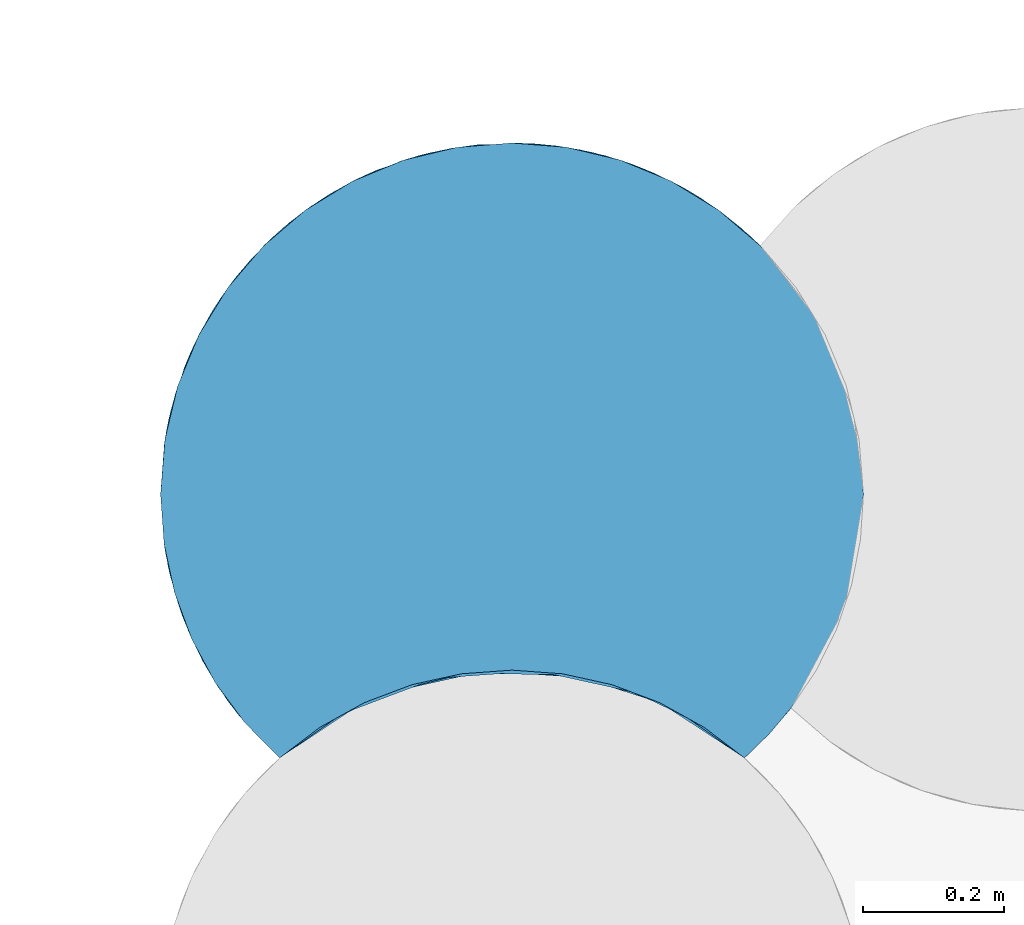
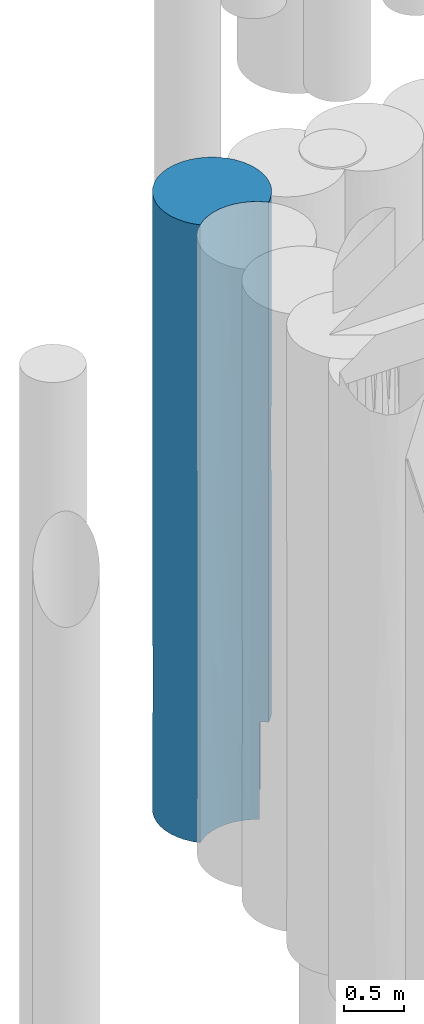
# One storey, part 79 of 104: 1 pile.
"""IFC2X3 building model written with IfcOpenShell, lengths in millimetres."""

from ifc_helpers import new_model, entity, si_unit, converted_unit, derived_unit, direction, frame, origin, place, context, subcontext, project, spatial, faceted_brep, source, transform, mapped, material, element, save


model = new_model("IFC2X3")

# Units and contexts
model_context = context("Model", 3, precision=0.01, world=origin(), true_north=direction((6.12303176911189e-17, 1.0)))
body_context = subcontext(model_context, "Body", "Model", "MODEL_VIEW")
ifc_project = project(units=[si_unit("LENGTHUNIT", "METRE", prefix="MILLI"), si_unit("AREAUNIT", "SQUARE_METRE", prefix="MILLI"), si_unit("VOLUMEUNIT", "CUBIC_METRE"), converted_unit("PLANEANGLEUNIT", "DEGREE", entity("IfcRatioMeasure", 0.0174532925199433), si_unit("PLANEANGLEUNIT", "RADIAN"), dimensions=[0, 0, 0, 0, 0, 0, 0]), si_unit("MASSUNIT", "GRAM", prefix="KILO"), derived_unit("MASSDENSITYUNIT", [(si_unit("MASSUNIT", "GRAM", prefix="KILO"), 1), (si_unit("LENGTHUNIT", "METRE"), -3)]), derived_unit("MOMENTOFINERTIAUNIT", [(si_unit("LENGTHUNIT", "METRE"), 4)]), si_unit("TIMEUNIT", "SECOND"), si_unit("FREQUENCYUNIT", "HERTZ"), si_unit("THERMODYNAMICTEMPERATUREUNIT", "DEGREE_CELSIUS"), derived_unit("THERMALTRANSMITTANCEUNIT", [(si_unit("MASSUNIT", "GRAM", prefix="KILO"), 1), (si_unit("THERMODYNAMICTEMPERATUREUNIT", "KELVIN"), -1), (si_unit("TIMEUNIT", "SECOND"), -3)]), derived_unit("VOLUMETRICFLOWRATEUNIT", [(si_unit("LENGTHUNIT", "METRE"), 3), (si_unit("TIMEUNIT", "SECOND"), -1)]), si_unit("ELECTRICCURRENTUNIT", "AMPERE"), si_unit("ELECTRICVOLTAGEUNIT", "VOLT"), si_unit("POWERUNIT", "WATT"), si_unit("FORCEUNIT", "NEWTON", prefix="KILO"), si_unit("ILLUMINANCEUNIT", "LUX"), si_unit("LUMINOUSFLUXUNIT", "LUMEN"), si_unit("LUMINOUSINTENSITYUNIT", "CANDELA"), derived_unit("USERDEFINED", [(si_unit("MASSUNIT", "GRAM", prefix="KILO"), -1), (si_unit("LENGTHUNIT", "METRE"), -2), (si_unit("TIMEUNIT", "SECOND"), 3), (si_unit("LUMINOUSFLUXUNIT", "LUMEN"), 1)]), derived_unit("LINEARVELOCITYUNIT", [(si_unit("LENGTHUNIT", "METRE"), 1), (si_unit("TIMEUNIT", "SECOND"), -1)]), si_unit("PRESSUREUNIT", "PASCAL"), derived_unit("USERDEFINED", [(si_unit("LENGTHUNIT", "METRE"), -2), (si_unit("MASSUNIT", "GRAM", prefix="KILO"), 1), (si_unit("TIMEUNIT", "SECOND"), -2)]), derived_unit("LINEARFORCEUNIT", [(si_unit("MASSUNIT", "GRAM", prefix="KILO"), 1), (si_unit("LENGTHUNIT", "METRE"), 1), (si_unit("TIMEUNIT", "SECOND"), -2), (si_unit("LENGTHUNIT", "METRE"), -1)]), derived_unit("PLANARFORCEUNIT", [(si_unit("MASSUNIT", "GRAM", prefix="KILO"), 1), (si_unit("LENGTHUNIT", "METRE"), 1), (si_unit("TIMEUNIT", "SECOND"), -2), (si_unit("LENGTHUNIT", "METRE"), -2)])], contexts=[model_context])

# Site, building, storey
site_placement = place(None, origin())
site = spatial("IfcSite", under=ifc_project, at=site_placement, Name="Theater aan de Parade", CompositionType="ELEMENT")
building_placement = place(site_placement, origin())
building = spatial("IfcBuilding", under=site, at=building_placement, Name="Theater aan de Parade", CompositionType="ELEMENT")
storey_placement = place(building_placement, frame((0.0, 0.0, -5520.0)))
storey = spatial("IfcBuildingStorey", under=building, at=storey_placement, Name="-2 kelder", CompositionType="ELEMENT", Elevation=-5520.0)

# Pile
ifc_material = material(Name="00_PBT_MAT_grout")
shared_shape = source(origin(), body_context, "Body", "Brep", [
    faceted_brep([(771.595272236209, 426.595272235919, 0.0), (771.595272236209, 47.4277804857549, 0.0), (708.553241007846, 81.752826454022, 0.0), (641.245770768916, 106.69707212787, 0.0), (571.060073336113, 121.746402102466, 0.0), (499.442677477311, 126.59063855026, 0.0), (427.869621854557, 121.129930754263, 0.0), (357.816033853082, 105.476813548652, 0.0), (290.725727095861, 79.9538884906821, 0.0), (227.981455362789, 45.0871828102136, 0.0), (170.876358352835, 1.59527223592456, 0.0), (121.346801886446, 51.9245147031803, 0.0), (79.4054520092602, 108.722623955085, 0.0), (45.8819407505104, 170.863992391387, 0.0), (21.4449513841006, 237.111691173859, 0.0), (6.58372515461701, 306.14267642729, 0.0), (1.5952722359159, 376.595272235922, 0.0), (7.00245761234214, 449.929764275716, 0.0), (23.1060438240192, 521.674761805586, 0.0), (49.5574540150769, 590.28151629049, 0.0), (85.7839385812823, 654.265823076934, 0.0), (131.001588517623, 712.24437708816, 0.0), (184.232206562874, 762.963858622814, 0.0), (244.324460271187, 805.327973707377, 0.0), (309.978781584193, 838.421127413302, 0.0), (379.775463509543, 861.528189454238, 0.0), (452.205347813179, 874.14992789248, 0.0), (525.70244103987, 876.013778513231, 0.0), (598.677754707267, 867.079718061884, 0.0), (669.553639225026, 847.541115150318, 0.0), (736.79787053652, 817.820540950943, 0.0), (798.956753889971, 778.560630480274, 0.0), (854.681338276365, 730.606553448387, 0.0), (899.82016176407, 678.947611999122, 0.0), (937.458431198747, 621.591816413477, 0.0), (966.892963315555, 559.620021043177, 0.0), (987.566626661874, 494.204126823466, 0.0), (999.088990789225, 426.595272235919, 0.0), (953.239872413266, 591.111367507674, 1381.7510307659), (1001.59527223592, 376.595272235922, 2561.53772597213), (1001.59527223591, 376.595272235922, 1000.0), (1000.96830879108, 401.626659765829, 1000.0), (848.930989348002, 736.258864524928, 5344.55119215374), (917.049039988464, 654.800532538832, 5308.07570261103), (877.101726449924, 706.739033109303, 4441.06819345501), (156.939340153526, 738.827640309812, 5357.22167721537), (96.9785831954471, 670.33892740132, 6320.0), (147.879183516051, 729.98588979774, 6320.0), (827.70457291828, 755.610738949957, 921.151738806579), (898.8957536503, 680.161290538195, 1162.74855042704), (999.088990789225, 426.595272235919, 1000.0), (213.498581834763, 785.251970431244, 920.15381045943), (291.15327803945, 830.152509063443, 810.828617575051), (634.475301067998, 858.614875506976, 1017.46635704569), (980.575628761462, 520.044977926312, 2521.25170621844), (993.18772646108, 467.901673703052, 3468.44463232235), (672.461852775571, 846.493784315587, 2006.04370418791), (562.354527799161, 872.889854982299, 1849.53812732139), (754.624820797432, 807.844675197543, 812.244561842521), (768.599877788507, 799.334601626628, 1632.22906462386), (15.8647589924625, 495.194886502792, 3425.00676783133), (39.6114825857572, 567.830671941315, 4323.72755607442), (59.8704803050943, 610.858389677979, 3379.77526209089), (897.929943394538, 681.421170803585, 6320.0), (963.402414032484, 568.256858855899, 6320.0), (974.965585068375, 537.593865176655, 4725.86252419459), (533.521299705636, 875.5749599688, 942.514832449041), (56.0293379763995, 603.467479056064, 6320.0), (75.191038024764, 637.707181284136, 5224.14321710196), (15.3941991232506, 493.250818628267, 5224.14321707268), (26.0385752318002, 531.016216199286, 6320.0), (838.046158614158, 746.461195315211, 3245.04919747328), (919.624145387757, 650.915999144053, 2650.89796131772), (858.856489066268, 726.401537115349, 1971.40063637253), (1001.59527223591, 376.595272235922, 5539.23113701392), (1001.59527223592, 376.595272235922, 4123.07545194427), (959.222312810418, 578.033827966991, 3586.42531278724), (854.6591219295, 730.637526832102, 6320.0), (794.96630704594, 781.482214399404, 6320.0), (934.383019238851, 626.984501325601, 6320.0), (511.246033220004, 876.502126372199, 5331.81977805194), (422.968903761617, 870.374468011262, 6320.0), (501.134978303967, 876.595060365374, 6320.0), (984.49529860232, 506.239263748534, 6320.0), (997.29925037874, 441.998376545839, 6320.0), (935.601957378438, 624.865683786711, 4440.2913989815), (9.25329301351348, 463.769669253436, 2344.79958530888), (1.5952722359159, 376.595272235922, 3123.07677752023), (13.73360964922, 486.098688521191, 933.042258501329), (41.7877270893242, 573.00561164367, 828.675845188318), (384.492188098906, 862.688748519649, 4846.27547099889), (346.736607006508, 852.009611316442, 6320.0), (572.035763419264, 871.608541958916, 3109.76698580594), (452.047967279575, 874.134280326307, 2498.01392287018), (762.314517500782, 803.239708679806, 4906.03867191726), (728.057191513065, 822.369877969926, 6320.0), (540.342981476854, 875.091626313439, 4376.06756971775), (617.803173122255, 862.903532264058, 5247.68212262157), (703.722752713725, 833.918442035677, 3155.80510153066), (415.758098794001, 869.172149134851, 1340.92848463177), (354.900819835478, 854.591859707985, 2195.35728535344), (344.451825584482, 851.259297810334, 3150.99551813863), (240.090937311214, 802.758953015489, 5266.75554212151), (281.893035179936, 825.739933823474, 4163.09276379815), (176.678786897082, 756.63379338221, 4418.71652685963), (107.325578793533, 684.087400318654, 1338.09582451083), (1001.59527223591, 376.595272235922, 6320.0), (276.542518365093, 823.082962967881, 1629.9119269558), (35.0688872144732, 556.4650364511, 1659.39207401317), (7.74390370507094, 454.767043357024, 6320.0), (1.5952722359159, 376.595272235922, 6320.0), (658.602525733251, 851.30436457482, 4190.85160928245), (749.693559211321, 810.700374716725, 3972.07439148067), (178.169234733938, 757.903019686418, 1988.38795987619), (452.200541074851, 874.14945072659, 3612.15134099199), (10.7146473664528, 471.654265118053, 4322.4066897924), (579.312373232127, 870.518396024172, 6320.0), (655.578352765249, 852.293927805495, 6320.0), (207.479262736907, 780.941377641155, 6320.0), (274.312985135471, 821.95216504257, 6320.0), (903.425891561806, 674.138804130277, 3568.50073788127), (205.732195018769, 779.664794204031, 3206.00769721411), (97.488355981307, 671.03983448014, 4189.81763721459), (55.6200587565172, 602.661875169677, 2458.889335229), (1.5952722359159, 376.595272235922, 780.76298501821), (1.5952722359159, 376.595272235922, 1561.53838876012), (1.59527223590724, 376.595272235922, 4721.5383887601), (1.59527223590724, 376.595272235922, 4758.45909542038), (1.5952722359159, 376.595272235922, 5539.23701498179), (368.479246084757, 858.549755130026, 3989.38450506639), (107.325578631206, 684.087400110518, 2718.24756362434), (797.303892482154, 779.778123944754, 2479.62013178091), (1.5952722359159, 376.595272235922, 3196.933125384), (1.59527223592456, 376.595272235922, 2379.23701498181), (81.9325787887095, 104.780585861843, 1017.18511568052), (8.55806942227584, 293.442902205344, 5148.84671878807), (14.9312625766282, 261.886328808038, 4158.7715699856), (32.4925295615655, 203.555921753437, 5243.64351772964), (95.9437805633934, 84.2823110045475, 3433.19596200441), (61.5454190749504, 139.200818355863, 1966.56472228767), (113.311086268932, 61.5787791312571, 1951.92213356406), (170.876358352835, 1.59527223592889, 1561.52693114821), (121.346801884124, 51.9245147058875, 6320.0), (170.876358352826, 1.59527223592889, 4721.55122183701), (170.876358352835, 1.59527223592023, 4758.46444495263), (170.876358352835, 1.59527223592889, 6320.0), (61.5454192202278, 139.200818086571, 4325.86684400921), (82.9474550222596, 103.220062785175, 5286.71455942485), (8.57236365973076, 293.358191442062, 1171.15328151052), (32.492529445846, 203.555922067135, 1063.68379680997), (6.58372515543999, 306.142676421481, 6320.0), (79.4054521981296, 108.722623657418, 6320.0), (15.0443011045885, 261.407805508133, 2148.18605632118), (45.8819409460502, 170.863991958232, 6320.0), (114.429533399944, 60.2051796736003, 4264.61051275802), (11.5744459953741, 277.199146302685, 3249.18197551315), (40.9318944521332, 182.200693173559, 3146.21578351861), (21.4449514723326, 237.111690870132, 6320.0), (170.876358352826, 1.59527223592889, 2342.30254206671), (170.876358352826, 1.59527223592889, 3123.07815298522), (170.876358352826, 1.59527223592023, 3940.77238040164), (573.617282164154, 121.38091277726, 6320.0), (644.137097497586, 105.846592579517, 6320.0), (711.683855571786, 80.3163177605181, 6320.0), (774.848704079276, 45.3225844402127, 6320.0), (832.314186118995, 1.59527223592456, 6320.0), (867.159553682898, 35.4754162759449, 6320.0), (898.504969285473, 72.5256502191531, 6320.0), (934.761466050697, 126.861316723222, 6320.0), (963.619737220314, 185.458165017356, 6320.0), (984.594521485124, 247.321434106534, 6320.0), (997.32580620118, 311.393756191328, 6320.0), (228.341840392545, 45.3225844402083, 6320.0), (291.506688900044, 80.3163177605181, 6320.0), (359.053446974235, 105.846592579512, 6320.0), (429.573262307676, 121.38091277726, 6320.0), (501.595272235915, 126.595272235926, 6320.0), (688.956416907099, 90.1638232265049, 1340.4413943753), (758.349408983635, 55.6375932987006, 1886.54071626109), (712.198170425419, 80.0778179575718, 2645.47714214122), (802.827671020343, 25.6679998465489, 1000.0), (832.314186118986, 1.59527223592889, 1000.0), (771.595272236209, 47.4277804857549, 1000.0), (258.727089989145, 63.6479533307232, 1046.28958521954), (606.423334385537, 115.482864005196, 873.534477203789), (832.314186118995, 1.59527223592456, 5539.23088831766), (323.812272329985, 93.9208599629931, 1922.57923863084), (284.507723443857, 77.0095217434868, 3116.55337305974), (238.9230271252, 52.0400884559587, 1951.92213538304), (658.042832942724, 101.48911379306, 5463.37972999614), (763.620284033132, 52.4390149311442, 4517.96417940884), (832.314186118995, 1.59527223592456, 4123.07538674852), (832.314186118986, 1.59527223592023, 4758.44494215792), (357.534922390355, 105.392322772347, 989.159883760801), (678.371966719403, 94.3024458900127, 4619.30089569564), (743.898833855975, 63.9612334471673, 5372.40596327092), (463.55802865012, 125.146340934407, 1355.76962226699), (606.423333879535, 115.482864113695, 1807.34831183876), (584.846448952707, 119.615800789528, 4046.97468994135), (674.35448587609, 95.8012548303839, 3462.96037064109), (465.490010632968, 125.28997852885, 3342.01516516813), (400.805957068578, 116.331439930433, 2567.64778405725), (503.979521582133, 126.589587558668, 2345.64036385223), (592.444462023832, 118.272427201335, 3016.22319950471), (394.03255252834, 114.888484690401, 5404.38906364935), (259.291709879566, 63.9612330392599, 5404.38906418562), (370.221463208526, 109.027570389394, 3411.71708895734), (243.100292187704, 54.5910026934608, 4578.41386490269), (324.818576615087, 94.3024454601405, 4691.9452614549), (537.700532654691, 125.289978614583, 4983.4280267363), (762.276659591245, 53.2628410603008, 3508.94704062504), (832.314186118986, 1.59527223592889, 2561.53822336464), (434.379932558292, 122.056772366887, 4387.56403530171), (832.314186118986, 1.5952722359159, 1780.79574797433), (832.314186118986, 1.5952722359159, 3196.92632242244), (917.540458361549, 99.1252700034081, 1955.09301580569), (867.171168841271, 35.4878641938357, 1000.0), (898.531422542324, 72.5530176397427, 1000.0), (896.390766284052, 69.7785225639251, 2829.99409704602), (950.158923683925, 155.709214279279, 2756.14628775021), (917.527076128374, 99.105210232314, 5352.99683042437), (997.327684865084, 311.408041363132, 1000.0), (975.125337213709, 216.067151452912, 1955.10139764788), (984.599592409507, 247.340381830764, 1000.0), (989.196445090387, 265.937709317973, 2937.9443579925), (894.42001763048, 67.2593392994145, 3954.69269750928), (934.773527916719, 126.882239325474, 1000.0), (975.118472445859, 216.046903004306, 5352.98578026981), (988.82471569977, 264.312284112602, 4384.29329364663), (967.802183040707, 195.899073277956, 3647.0139001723), (963.62858497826, 185.4795535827, 1000.0), (950.148475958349, 155.687998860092, 4537.78307526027), (771.595272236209, 426.595272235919, 1000.0)], [[[0, 1, 2, 3, 4, 5, 6, 7, 8, 9, 10, 11, 12, 13, 14, 15, 16, 17, 18, 19, 20, 21, 22, 23, 24, 25, 26, 27, 28, 29, 30, 31, 32, 33, 34, 35, 36, 37]], [[36, 35, 38]], [[39, 40, 41]], [[42, 43, 44]], [[45, 46, 47]], [[32, 48, 49]], [[36, 50, 37]], [[49, 34, 33]], [[51, 52, 23]], [[28, 53, 29]], [[39, 54, 55]], [[56, 53, 57]], [[58, 29, 53]], [[48, 58, 59]], [[60, 61, 62]], [[42, 63, 43]], [[64, 65, 43]], [[66, 28, 27]], [[67, 68, 69, 70]], [[56, 58, 53]], [[66, 53, 28]], [[50, 38, 54]], [[71, 72, 73]], [[74, 75, 65]], [[54, 76, 55]], [[77, 42, 78]], [[35, 34, 38]], [[64, 43, 79]], [[80, 81, 82]], [[74, 83, 84]], [[50, 39, 41]], [[58, 31, 30]], [[43, 85, 44]], [[60, 86, 87]], [[88, 89, 18]], [[65, 64, 83]], [[43, 63, 79]], [[90, 91, 81]], [[92, 57, 93]], [[42, 77, 63]], [[94, 95, 78]], [[96, 80, 97]], [[98, 56, 92]], [[97, 95, 94]], [[66, 26, 99]], [[52, 99, 25]], [[93, 100, 101]], [[102, 103, 104]], [[21, 105, 51]], [[99, 26, 25]], [[84, 106, 74]], [[74, 65, 83]], [[56, 59, 58]], [[52, 51, 107]], [[66, 57, 53]], [[89, 88, 108]], [[109, 69, 110]], [[20, 19, 89]], [[21, 20, 105]], [[97, 111, 96]], [[112, 44, 71]], [[18, 17, 88]], [[32, 31, 48]], [[51, 113, 107]], [[114, 90, 96]], [[69, 61, 115]], [[97, 116, 117]], [[80, 116, 97]], [[102, 118, 119]], [[70, 69, 109]], [[80, 82, 116]], [[104, 45, 102]], [[48, 73, 49]], [[44, 120, 71]], [[91, 90, 102]], [[104, 103, 121]], [[68, 122, 61]], [[57, 99, 93]], [[61, 122, 62]], [[107, 113, 121]], [[102, 45, 118]], [[61, 69, 68]], [[54, 38, 72]], [[123, 105, 108]], [[118, 45, 47]], [[105, 20, 89]], [[46, 68, 67]], [[51, 23, 22]], [[36, 38, 50]], [[52, 25, 24]], [[85, 43, 65]], [[88, 16, 124, 125]], [[68, 45, 122]], [[115, 61, 60]], [[69, 126, 127, 128, 110]], [[95, 97, 117]], [[94, 112, 111]], [[91, 102, 119]], [[114, 101, 129]], [[73, 48, 59]], [[49, 33, 32]], [[16, 88, 17]], [[86, 88, 125]], [[21, 51, 22]], [[113, 51, 105]], [[105, 130, 113]], [[122, 121, 130]], [[73, 131, 71]], [[49, 72, 38]], [[131, 73, 59]], [[112, 98, 111]], [[90, 103, 102]], [[100, 121, 101]], [[101, 121, 103]], [[130, 121, 113]], [[94, 111, 97]], [[92, 111, 98]], [[92, 56, 57]], [[131, 56, 98]], [[76, 54, 72]], [[50, 54, 39]], [[121, 122, 104]], [[62, 122, 130]], [[130, 123, 62]], [[60, 62, 123]], [[123, 86, 60]], [[115, 87, 132, 126]], [[88, 86, 108]], [[86, 125, 133, 87]], [[44, 94, 42]], [[78, 42, 94]], [[120, 72, 71]], [[55, 65, 75]], [[105, 123, 130]], [[86, 123, 108]], [[65, 76, 85]], [[120, 85, 76]], [[26, 66, 27]], [[99, 57, 66]], [[96, 90, 80]], [[81, 80, 90]], [[72, 49, 73]], [[49, 38, 34]], [[65, 55, 76]], [[39, 55, 75]], [[122, 45, 104]], [[46, 45, 68]], [[105, 89, 108]], [[18, 89, 19]], [[31, 58, 48]], [[58, 30, 29]], [[99, 52, 107]], [[23, 52, 24]], [[100, 99, 107]], [[114, 93, 101]], [[114, 92, 93]], [[111, 92, 96]], [[101, 103, 129]], [[92, 114, 96]], [[44, 112, 94]], [[71, 98, 112]], [[87, 115, 60]], [[126, 69, 115]], [[56, 131, 59]], [[98, 71, 131]], [[99, 100, 93]], [[121, 100, 107]], [[85, 120, 44]], [[76, 72, 120]], [[103, 90, 129]], [[90, 114, 129]], [[134, 13, 12]], [[135, 136, 137]], [[138, 139, 140]], [[10, 141, 11]], [[142, 143, 144, 145]], [[137, 146, 147]], [[148, 14, 149]], [[141, 134, 11]], [[150, 110, 128]], [[16, 15, 124]], [[124, 148, 125]], [[134, 149, 13]], [[151, 147, 142]], [[152, 149, 139]], [[153, 147, 151]], [[135, 150, 128]], [[15, 14, 148]], [[138, 154, 146]], [[146, 137, 136]], [[155, 156, 136]], [[150, 135, 157]], [[147, 153, 137]], [[146, 156, 138]], [[14, 13, 149]], [[139, 149, 134]], [[137, 153, 157]], [[136, 127, 126, 132]], [[152, 156, 155]], [[152, 139, 156]], [[155, 133, 152]], [[138, 156, 139]], [[136, 156, 146]], [[154, 147, 146]], [[142, 147, 143]], [[11, 134, 12]], [[138, 140, 158]], [[140, 141, 158]], [[154, 159, 160, 143]], [[140, 134, 141]], [[159, 138, 158]], [[134, 140, 139]], [[159, 154, 138]], [[147, 154, 143]], [[135, 128, 127]], [[136, 135, 127]], [[135, 137, 157]], [[148, 152, 125]], [[15, 148, 124]], [[152, 148, 149]], [[136, 132, 155]], [[133, 125, 152]], [[155, 132, 87, 133]], [[161, 162, 163, 164, 165, 166, 167, 168, 169, 170, 171, 106, 84, 83, 64, 79, 63, 77, 78, 95, 117, 116, 82, 81, 91, 119, 118, 47, 46, 67, 70, 109, 110, 150, 157, 153, 151, 142, 145, 172, 173, 174, 175, 176]], [[177, 178, 179]], [[180, 181, 178]], [[2, 1, 182]], [[8, 183, 9]], [[3, 184, 4]], [[9, 183, 10]], [[185, 165, 164]], [[3, 2, 184]], [[186, 187, 188]], [[162, 161, 189]], [[2, 177, 184]], [[190, 191, 192, 185]], [[8, 193, 183]], [[182, 180, 178]], [[189, 194, 195]], [[190, 195, 194]], [[10, 183, 141]], [[196, 184, 197]], [[164, 163, 195]], [[6, 5, 196]], [[162, 189, 163]], [[195, 185, 164]], [[8, 7, 193]], [[198, 199, 194]], [[200, 201, 202]], [[202, 203, 200]], [[204, 173, 205]], [[7, 6, 193]], [[201, 206, 187]], [[186, 183, 193]], [[187, 160, 159, 158]], [[205, 144, 207]], [[163, 189, 195]], [[205, 172, 145]], [[203, 197, 179]], [[196, 5, 184]], [[205, 208, 204]], [[173, 204, 174]], [[173, 172, 205]], [[161, 176, 209]], [[204, 209, 176]], [[210, 179, 211]], [[175, 174, 204]], [[182, 178, 177]], [[204, 208, 212]], [[186, 201, 187]], [[208, 205, 207]], [[144, 205, 145]], [[175, 204, 176]], [[206, 201, 200]], [[5, 4, 184]], [[197, 184, 177]], [[212, 209, 204]], [[209, 212, 198]], [[179, 197, 177]], [[182, 177, 2]], [[197, 202, 196]], [[199, 210, 190]], [[178, 211, 179]], [[178, 181, 213, 211]], [[198, 212, 200]], [[210, 199, 179]], [[193, 196, 186]], [[196, 193, 6]], [[195, 190, 185]], [[191, 190, 210]], [[210, 211, 214, 191]], [[199, 203, 179]], [[203, 199, 198]], [[194, 199, 190]], [[203, 198, 200]], [[209, 198, 194]], [[203, 202, 197]], [[186, 196, 201]], [[202, 201, 196]], [[158, 141, 188]], [[207, 160, 187]], [[206, 212, 208]], [[187, 206, 208]], [[206, 200, 212]], [[189, 209, 194]], [[209, 189, 161]], [[207, 187, 208]], [[141, 183, 188]], [[207, 144, 143, 160]], [[158, 188, 187]], [[186, 188, 183]], [[215, 216, 217]], [[218, 215, 219]], [[167, 220, 168]], [[221, 222, 223]], [[224, 222, 39]], [[221, 39, 222]], [[218, 225, 214]], [[215, 217, 226]], [[219, 215, 222]], [[166, 165, 185, 192]], [[221, 40, 39]], [[170, 169, 227]], [[220, 166, 192]], [[216, 215, 213]], [[168, 220, 169]], [[227, 228, 74]], [[229, 219, 224]], [[230, 215, 226]], [[215, 218, 213]], [[227, 171, 170]], [[169, 220, 227]], [[219, 222, 224]], [[230, 223, 222]], [[213, 181, 216]], [[166, 220, 167]], [[106, 171, 74]], [[225, 218, 219]], [[215, 230, 222]], [[225, 220, 192]], [[220, 231, 227]], [[228, 227, 231]], [[171, 227, 74]], [[39, 75, 224]], [[224, 75, 228]], [[228, 231, 229]], [[74, 228, 75]], [[219, 229, 225]], [[218, 214, 211, 213]], [[220, 225, 231]], [[225, 192, 191, 214]], [[228, 229, 224]], [[225, 229, 231]], [[221, 223, 230, 226, 217, 216, 181, 180, 182, 232, 50, 41, 40]], [[232, 182, 1, 0]], [[50, 232, 0, 37]]]),
])
pile_placement = place(storey_placement, frame((73298.4047277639, 20277.3807468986, -3840.0)))
element("IfcPile", 1, at=pile_placement, inside=storey, material=ifc_material, Name="17_PBT_SFO_grondkering_rond:Ø1000 (grondkering)", ObjectType="17_PBT_SFO_grondkering_rond:Ø1000 (grondkering)", PredefinedType="NOTDEFINED", context=body_context, shape_type="MappedRepresentation", body=[
    mapped(shared_shape, transform((0.0, 0.0, 0.0), scale=1.0)),
])

save(model, "model.ifc")
